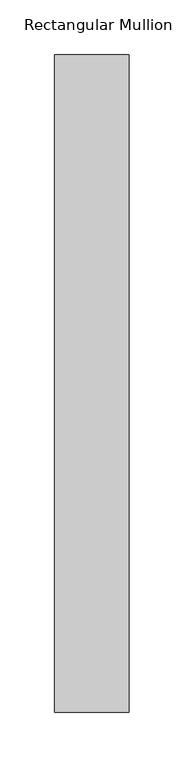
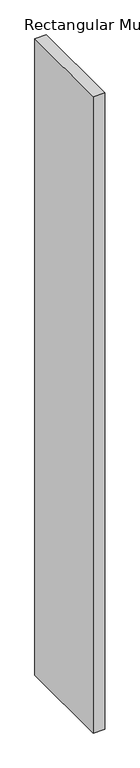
"""IFC4 building model written with IfcOpenShell, lengths in millimetres: member geometry, Rectangular Mullion : DucoSun Cubic Design louvre 600."""

from ifc_helpers import new_model, si_unit, frame, origin, place, context, project, spatial, polyline, outline, extrude, source, transform, mapped, element, save


def rectangular_mullion_4c34dfbc(model_context):
    return source(origin(), model_context, "Body", "SweptSolid", [
        extrude(outline(polyline([(-68.0, -600.0), (-68.0, 0.0), (0.0, 0.0), (0.0, -600.0), (-68.0, -600.0)])), frame((0.0, 0.0, -4000.0), z_axis=(0.0, 0.0, 1.0), x_axis=(1.0, 0.0, 0.0)), (0.0, 0.0, 1.0), 4000.0),
    ])


if __name__ == "__main__":
    model = new_model("IFC4")
    model_context = context("Model", 3, world=origin())
    ifc_project = project(units=[si_unit("LENGTHUNIT", "METRE", prefix="MILLI")], contexts=[model_context])
    site = spatial("IfcSite", under=ifc_project)
    building = spatial("IfcBuilding", under=site)
    placement = place(None, origin())
    rectangular_mullion_shape = rectangular_mullion_4c34dfbc(model_context)
    element("IfcMember", 1, ObjectType="Rectangular Mullion : DucoSun Cubic Design louvre 600", at=placement, inside=building, context=model_context, shape_type="MappedRepresentation", body=[
        mapped(rectangular_mullion_shape, transform((0.0, 0.0, 0.0), x_axis=(1.0, 0.0, 0.0), y_axis=(0.0, 1.0, 0.0), z_axis=(0.0, 0.0, 1.0))),
    ])
    save(model, "model.ifc")
